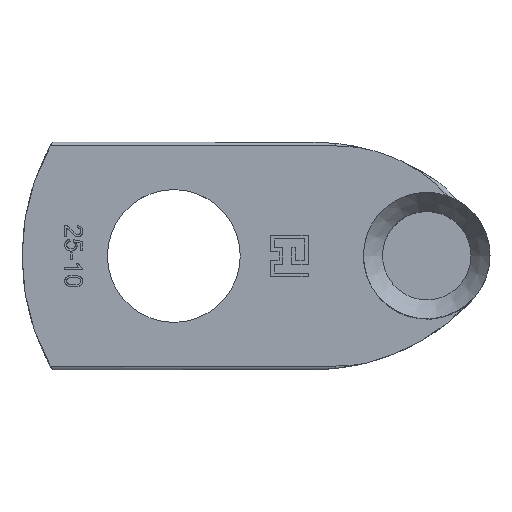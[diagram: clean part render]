
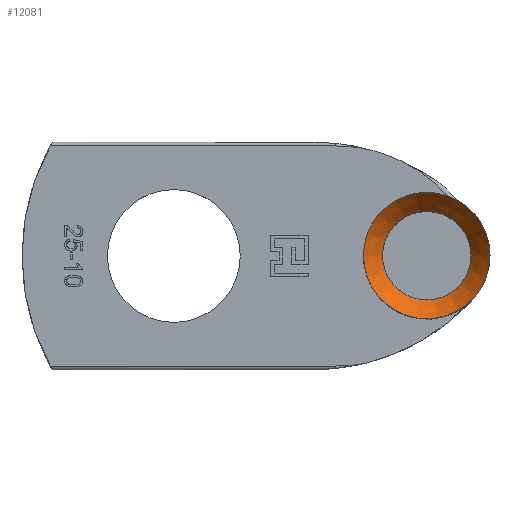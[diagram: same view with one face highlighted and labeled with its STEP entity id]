
A CAD part, top view. The second image highlights one B-rep face of the part: STEP entity #12081.
In plain terms, the highlighted conical face has half-angle 36.87 degrees and reference radius 3.5 mm.
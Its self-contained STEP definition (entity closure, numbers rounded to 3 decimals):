
#196 = CYLINDRICAL_SURFACE('',#197,5.);
#197 = AXIS2_PLACEMENT_3D('',#198,#199,#200);
#198 = CARTESIAN_POINT('',(32.,0.,7.225));
#199 = DIRECTION('',(-0.,-0.,-1.));
#200 = DIRECTION('',(1.,0.,0.));
#12029 = VERTEX_POINT('',#12030);
#12030 = CARTESIAN_POINT('',(37.,0.,22.225));
#12050 = EDGE_CURVE('',#12029,#12029,#12051,.T.);
#12051 = SURFACE_CURVE('',#12052,(#12057,#12064),.PCURVE_S1.);
#12052 = CIRCLE('',#12053,5.);
#12053 = AXIS2_PLACEMENT_3D('',#12054,#12055,#12056);
#12054 = CARTESIAN_POINT('',(32.,0.,22.225));
#12055 = DIRECTION('',(0.,0.,1.));
#12056 = DIRECTION('',(1.,0.,0.));
#12057 = PCURVE('',#196,#12058);
#12058 = DEFINITIONAL_REPRESENTATION('',(#12059),#12063);
#12059 = LINE('',#12060,#12061);
#12060 = CARTESIAN_POINT('',(-0.,-15.));
#12061 = VECTOR('',#12062,1.);
#12062 = DIRECTION('',(-1.,0.));
#12063 = ( GEOMETRIC_REPRESENTATION_CONTEXT(2) 
PARAMETRIC_REPRESENTATION_CONTEXT() REPRESENTATION_CONTEXT('2D SPACE',''
  ) );
#12064 = PCURVE('',#12065,#12070);
#12065 = CONICAL_SURFACE('',#12066,3.5,0.644);
#12066 = AXIS2_PLACEMENT_3D('',#12067,#12068,#12069);
#12067 = CARTESIAN_POINT('',(32.,0.,20.225));
#12068 = DIRECTION('',(0.,0.,1.));
#12069 = DIRECTION('',(1.,0.,0.));
#12070 = DEFINITIONAL_REPRESENTATION('',(#12071),#12074);
#12071 = B_SPLINE_CURVE_WITH_KNOTS('',1,(#12072,#12073),.UNSPECIFIED.,
  .F.,.F.,(2,2),(0.,6.283),.PIECEWISE_BEZIER_KNOTS.);
#12072 = CARTESIAN_POINT('',(0.,2.));
#12073 = CARTESIAN_POINT('',(6.283,2.));
#12074 = ( GEOMETRIC_REPRESENTATION_CONTEXT(2) 
PARAMETRIC_REPRESENTATION_CONTEXT() REPRESENTATION_CONTEXT('2D SPACE',''
  ) );
#12081 = ADVANCED_FACE('',(#12082),#12065,.F.);
#12082 = FACE_BOUND('',#12083,.F.);
#12083 = EDGE_LOOP('',(#12084,#12085,#12108,#12135));
#12084 = ORIENTED_EDGE('',*,*,#12050,.F.);
#12085 = ORIENTED_EDGE('',*,*,#12086,.F.);
#12086 = EDGE_CURVE('',#12087,#12029,#12089,.T.);
#12087 = VERTEX_POINT('',#12088);
#12088 = CARTESIAN_POINT('',(35.5,0.,20.225));
#12089 = SEAM_CURVE('',#12090,(#12094,#12101),.PCURVE_S1.);
#12090 = LINE('',#12091,#12092);
#12091 = CARTESIAN_POINT('',(35.5,0.,20.225));
#12092 = VECTOR('',#12093,1.);
#12093 = DIRECTION('',(0.6,0.,0.8));
#12094 = PCURVE('',#12065,#12095);
#12095 = DEFINITIONAL_REPRESENTATION('',(#12096),#12100);
#12096 = LINE('',#12097,#12098);
#12097 = CARTESIAN_POINT('',(6.283,-0.));
#12098 = VECTOR('',#12099,1.);
#12099 = DIRECTION('',(0.,1.));
#12100 = ( GEOMETRIC_REPRESENTATION_CONTEXT(2) 
PARAMETRIC_REPRESENTATION_CONTEXT() REPRESENTATION_CONTEXT('2D SPACE',''
  ) );
#12101 = PCURVE('',#12065,#12102);
#12102 = DEFINITIONAL_REPRESENTATION('',(#12103),#12107);
#12103 = LINE('',#12104,#12105);
#12104 = CARTESIAN_POINT('',(0.,-0.));
#12105 = VECTOR('',#12106,1.);
#12106 = DIRECTION('',(0.,1.));
#12107 = ( GEOMETRIC_REPRESENTATION_CONTEXT(2) 
PARAMETRIC_REPRESENTATION_CONTEXT() REPRESENTATION_CONTEXT('2D SPACE',''
  ) );
#12108 = ORIENTED_EDGE('',*,*,#12109,.T.);
#12109 = EDGE_CURVE('',#12087,#12087,#12110,.T.);
#12110 = SURFACE_CURVE('',#12111,(#12116,#12123),.PCURVE_S1.);
#12111 = CIRCLE('',#12112,3.5);
#12112 = AXIS2_PLACEMENT_3D('',#12113,#12114,#12115);
#12113 = CARTESIAN_POINT('',(32.,0.,20.225));
#12114 = DIRECTION('',(0.,0.,1.));
#12115 = DIRECTION('',(1.,0.,0.));
#12116 = PCURVE('',#12065,#12117);
#12117 = DEFINITIONAL_REPRESENTATION('',(#12118),#12122);
#12118 = LINE('',#12119,#12120);
#12119 = CARTESIAN_POINT('',(0.,0.));
#12120 = VECTOR('',#12121,1.);
#12121 = DIRECTION('',(1.,0.));
#12122 = ( GEOMETRIC_REPRESENTATION_CONTEXT(2) 
PARAMETRIC_REPRESENTATION_CONTEXT() REPRESENTATION_CONTEXT('2D SPACE',''
  ) );
#12123 = PCURVE('',#12124,#12129);
#12124 = CYLINDRICAL_SURFACE('',#12125,3.5);
#12125 = AXIS2_PLACEMENT_3D('',#12126,#12127,#12128);
#12126 = CARTESIAN_POINT('',(32.,0.,7.225));
#12127 = DIRECTION('',(-0.,-0.,-1.));
#12128 = DIRECTION('',(1.,0.,0.));
#12129 = DEFINITIONAL_REPRESENTATION('',(#12130),#12134);
#12130 = LINE('',#12131,#12132);
#12131 = CARTESIAN_POINT('',(-0.,-13.));
#12132 = VECTOR('',#12133,1.);
#12133 = DIRECTION('',(-1.,0.));
#12134 = ( GEOMETRIC_REPRESENTATION_CONTEXT(2) 
PARAMETRIC_REPRESENTATION_CONTEXT() REPRESENTATION_CONTEXT('2D SPACE',''
  ) );
#12135 = ORIENTED_EDGE('',*,*,#12086,.T.);
